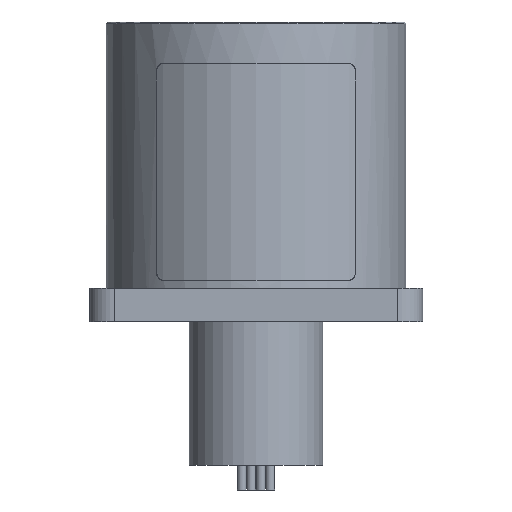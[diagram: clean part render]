
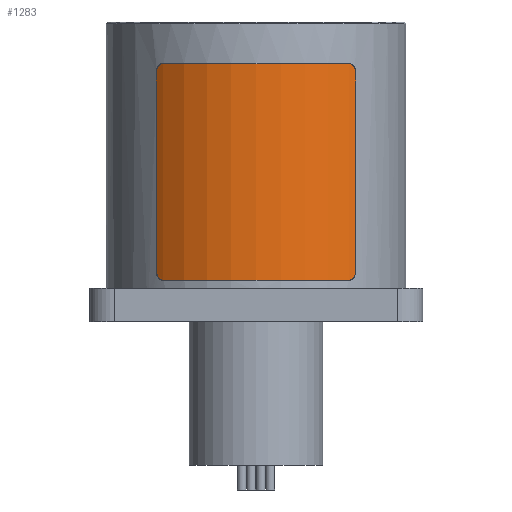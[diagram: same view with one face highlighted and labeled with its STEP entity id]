
A CAD part, front view. The second image highlights one B-rep face of the part: STEP entity #1283.
In plain terms, the highlighted cylindrical face has radius 18.1 mm (diameter 36.2 mm), a partial arc.
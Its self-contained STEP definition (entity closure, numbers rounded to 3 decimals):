
#350=B_SPLINE_CURVE_WITH_KNOTS('',3,(#5600,#5601,#5602,#5603,#5604,#5605,
#5606,#5607,#5608,#5609,#5610,#5611,#5612,#5613,#5614,#5615),
 .UNSPECIFIED.,.F.,.F.,(4,3,3,3,3,4),(0.,0.215,0.43,
0.644,0.859,1.),.UNSPECIFIED.);
#351=B_SPLINE_CURVE_WITH_KNOTS('',3,(#5616,#5617,#5618,#5619,#5620,#5621,
#5622,#5623,#5624,#5625,#5626,#5627,#5628,#5629,#5630,#5631),
 .UNSPECIFIED.,.F.,.F.,(4,3,3,3,3,4),(0.,0.215,0.43,
0.645,0.859,1.),.UNSPECIFIED.);
#352=B_SPLINE_CURVE_WITH_KNOTS('',3,(#5635,#5636,#5637,#5638,#5639,#5640,
#5641,#5642,#5643,#5644,#5645,#5646,#5647,#5648,#5649,#5650),
 .UNSPECIFIED.,.F.,.F.,(4,3,3,3,3,4),(0.,0.215,0.43,
0.644,0.859,1.),.UNSPECIFIED.);
#353=B_SPLINE_CURVE_WITH_KNOTS('',3,(#5654,#5655,#5656,#5657,#5658,#5659,
#5660,#5661,#5662,#5663,#5664,#5665,#5666,#5667,#5668,#5669),
 .UNSPECIFIED.,.F.,.F.,(4,3,3,3,3,4),(0.,0.215,0.43,
0.645,0.859,1.),.UNSPECIFIED.);
#463=FACE_OUTER_BOUND('',#1710,.T.);
#631=LINE('',#5588,#875);
#635=LINE('',#5652,#879);
#875=VECTOR('',#4585,1.);
#879=VECTOR('',#4595,1.);
#1283=ADVANCED_FACE('',(#463),#1496,.T.);
#1496=CYLINDRICAL_SURFACE('',#4163,18.1);
#1710=EDGE_LOOP('',(#2013,#2014,#2015,#2016,#2017,#2018,#2019,#2020));
#2013=ORIENTED_EDGE('',*,*,#3483,.F.);
#2014=ORIENTED_EDGE('',*,*,#3484,.T.);
#2015=ORIENTED_EDGE('',*,*,#3479,.F.);
#2016=ORIENTED_EDGE('',*,*,#3485,.T.);
#2017=ORIENTED_EDGE('',*,*,#3486,.T.);
#2018=ORIENTED_EDGE('',*,*,#3487,.T.);
#2019=ORIENTED_EDGE('',*,*,#3488,.T.);
#2020=ORIENTED_EDGE('',*,*,#3489,.T.);
#3094=VERTEX_POINT('',#5589);
#3095=VERTEX_POINT('',#5590);
#3098=VERTEX_POINT('',#5598);
#3099=VERTEX_POINT('',#5599);
#3100=VERTEX_POINT('',#5632);
#3101=VERTEX_POINT('',#5634);
#3102=VERTEX_POINT('',#5651);
#3103=VERTEX_POINT('',#5653);
#3479=EDGE_CURVE('',#3094,#3095,#631,.T.);
#3483=EDGE_CURVE('',#3098,#3099,#4028,.T.);
#3484=EDGE_CURVE('',#3098,#3095,#350,.T.);
#3485=EDGE_CURVE('',#3094,#3100,#351,.T.);
#3486=EDGE_CURVE('',#3100,#3101,#4029,.T.);
#3487=EDGE_CURVE('',#3101,#3102,#352,.T.);
#3488=EDGE_CURVE('',#3102,#3103,#635,.T.);
#3489=EDGE_CURVE('',#3103,#3099,#353,.T.);
#4028=CIRCLE('',#4161,18.1);
#4029=CIRCLE('',#4162,18.1);
#4161=AXIS2_PLACEMENT_3D('',#5597,#4591,#4592);
#4162=AXIS2_PLACEMENT_3D('',#5633,#4593,#4594);
#4163=AXIS2_PLACEMENT_3D('',#5670,#4596,#4597);
#4585=DIRECTION('',(0.,0.,1.));
#4591=DIRECTION('',(0.,0.,1.));
#4592=DIRECTION('',(1.,0.,0.));
#4593=DIRECTION('',(0.,0.,1.));
#4594=DIRECTION('',(1.,0.,0.));
#4595=DIRECTION('',(0.,0.,1.));
#4596=DIRECTION('',(0.,0.,1.));
#4597=DIRECTION('',(1.,0.,0.));
#5588=CARTESIAN_POINT('',(-7.384,21.278,45.173));
#5589=CARTESIAN_POINT('',(-7.384,21.278,46.173));
#5590=CARTESIAN_POINT('',(-7.384,21.278,70.173));
#5597=CARTESIAN_POINT('',(4.581,34.859,71.173));
#5598=CARTESIAN_POINT('',(-6.615,20.638,71.173));
#5599=CARTESIAN_POINT('',(15.778,20.638,71.173));
#5600=CARTESIAN_POINT('',(-6.615,20.638,71.173));
#5601=CARTESIAN_POINT('',(-6.703,20.707,71.173));
#5602=CARTESIAN_POINT('',(-6.791,20.778,71.154));
#5603=CARTESIAN_POINT('',(-6.873,20.845,71.117));
#5604=CARTESIAN_POINT('',(-6.955,20.912,71.08));
#5605=CARTESIAN_POINT('',(-7.032,20.976,71.024));
#5606=CARTESIAN_POINT('',(-7.099,21.033,70.954));
#5607=CARTESIAN_POINT('',(-7.166,21.089,70.884));
#5608=CARTESIAN_POINT('',(-7.224,21.139,70.798));
#5609=CARTESIAN_POINT('',(-7.269,21.178,70.704));
#5610=CARTESIAN_POINT('',(-7.314,21.217,70.609));
#5611=CARTESIAN_POINT('',(-7.347,21.245,70.502));
#5612=CARTESIAN_POINT('',(-7.365,21.262,70.393));
#5613=CARTESIAN_POINT('',(-7.377,21.273,70.321));
#5614=CARTESIAN_POINT('',(-7.384,21.278,70.247));
#5615=CARTESIAN_POINT('',(-7.384,21.278,70.173));
#5616=CARTESIAN_POINT('',(-7.384,21.278,46.173));
#5617=CARTESIAN_POINT('',(-7.384,21.278,46.061));
#5618=CARTESIAN_POINT('',(-7.369,21.265,45.947));
#5619=CARTESIAN_POINT('',(-7.341,21.241,45.842));
#5620=CARTESIAN_POINT('',(-7.313,21.216,45.736));
#5621=CARTESIAN_POINT('',(-7.271,21.18,45.635));
#5622=CARTESIAN_POINT('',(-7.218,21.134,45.548));
#5623=CARTESIAN_POINT('',(-7.165,21.089,45.461));
#5624=CARTESIAN_POINT('',(-7.1,21.033,45.384));
#5625=CARTESIAN_POINT('',(-7.027,20.972,45.325));
#5626=CARTESIAN_POINT('',(-6.954,20.911,45.266));
#5627=CARTESIAN_POINT('',(-6.872,20.844,45.222));
#5628=CARTESIAN_POINT('',(-6.787,20.775,45.197));
#5629=CARTESIAN_POINT('',(-6.731,20.73,45.181));
#5630=CARTESIAN_POINT('',(-6.673,20.683,45.173));
#5631=CARTESIAN_POINT('',(-6.615,20.638,45.173));
#5632=CARTESIAN_POINT('',(-6.615,20.638,45.173));
#5633=CARTESIAN_POINT('',(4.581,34.859,45.173));
#5634=CARTESIAN_POINT('',(15.778,20.638,45.173));
#5635=CARTESIAN_POINT('',(15.778,20.638,45.173));
#5636=CARTESIAN_POINT('',(15.866,20.707,45.173));
#5637=CARTESIAN_POINT('',(15.954,20.778,45.192));
#5638=CARTESIAN_POINT('',(16.036,20.845,45.229));
#5639=CARTESIAN_POINT('',(16.118,20.912,45.266));
#5640=CARTESIAN_POINT('',(16.195,20.976,45.322));
#5641=CARTESIAN_POINT('',(16.262,21.033,45.392));
#5642=CARTESIAN_POINT('',(16.329,21.089,45.461));
#5643=CARTESIAN_POINT('',(16.387,21.139,45.547));
#5644=CARTESIAN_POINT('',(16.432,21.178,45.642));
#5645=CARTESIAN_POINT('',(16.477,21.217,45.737));
#5646=CARTESIAN_POINT('',(16.509,21.245,45.843));
#5647=CARTESIAN_POINT('',(16.528,21.262,45.952));
#5648=CARTESIAN_POINT('',(16.54,21.273,46.024));
#5649=CARTESIAN_POINT('',(16.546,21.278,46.099));
#5650=CARTESIAN_POINT('',(16.546,21.278,46.173));
#5651=CARTESIAN_POINT('',(16.546,21.278,46.173));
#5652=CARTESIAN_POINT('',(16.546,21.278,45.173));
#5653=CARTESIAN_POINT('',(16.546,21.278,70.173));
#5654=CARTESIAN_POINT('',(16.546,21.278,70.173));
#5655=CARTESIAN_POINT('',(16.546,21.278,70.285));
#5656=CARTESIAN_POINT('',(16.532,21.265,70.398));
#5657=CARTESIAN_POINT('',(16.504,21.241,70.504));
#5658=CARTESIAN_POINT('',(16.476,21.216,70.609));
#5659=CARTESIAN_POINT('',(16.434,21.18,70.71));
#5660=CARTESIAN_POINT('',(16.381,21.134,70.797));
#5661=CARTESIAN_POINT('',(16.328,21.089,70.885));
#5662=CARTESIAN_POINT('',(16.263,21.033,70.961));
#5663=CARTESIAN_POINT('',(16.19,20.972,71.021));
#5664=CARTESIAN_POINT('',(16.117,20.911,71.08));
#5665=CARTESIAN_POINT('',(16.035,20.844,71.124));
#5666=CARTESIAN_POINT('',(15.95,20.775,71.148));
#5667=CARTESIAN_POINT('',(15.894,20.73,71.165));
#5668=CARTESIAN_POINT('',(15.836,20.683,71.173));
#5669=CARTESIAN_POINT('',(15.778,20.638,71.173));
#5670=CARTESIAN_POINT('',(4.581,34.859,45.173));
